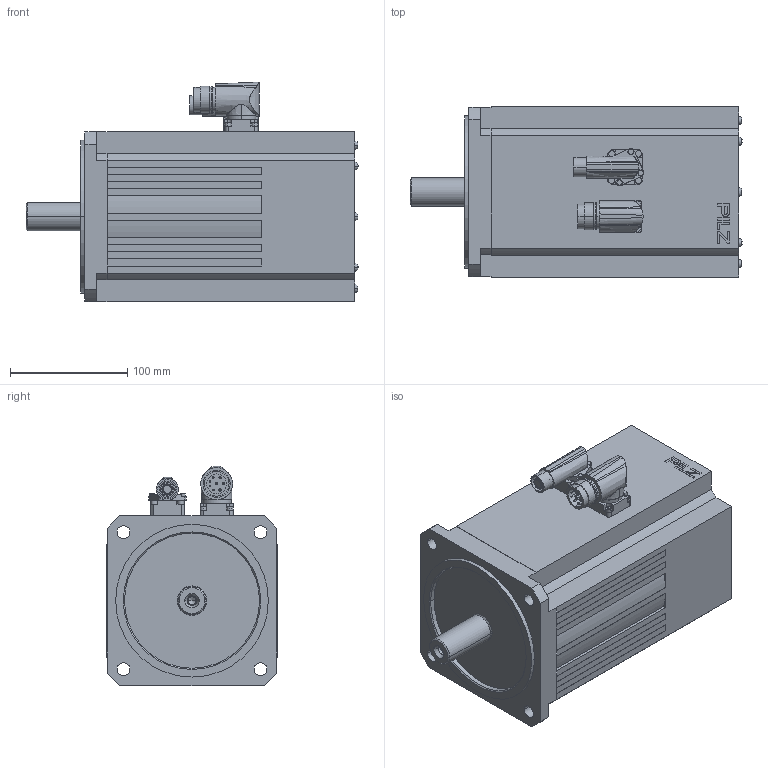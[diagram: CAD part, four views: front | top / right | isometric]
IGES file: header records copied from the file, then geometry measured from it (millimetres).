
Start section:  PTC IGES file: 2022972
Global section: file name: 2022972; native system: Creo Parametric by Parametric Technology Corporation; preprocessor: 2015110; author: smayer; organization: Unknown; date: 20160628.093234; units: millimetre
Bounding box: 282.63 x 145 x 187 mm (x, y, z)
Surface area: 196647.7 mm2 (no closed solid volume)
Topology: 0 solids, 0 shells, 507 faces, 2742 edges, 2740 vertices
Faces by surface type: bspline 300, revolution 207
